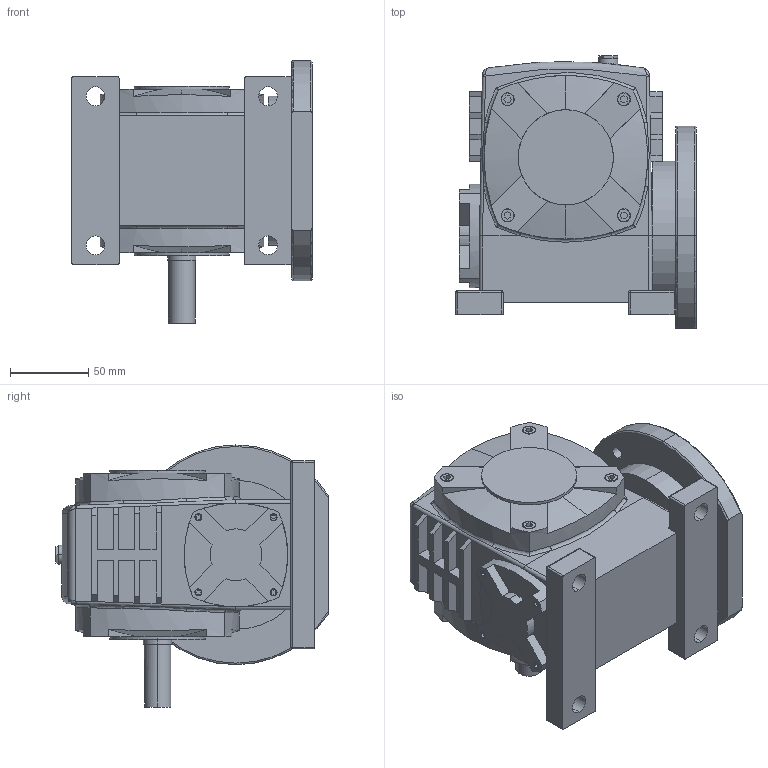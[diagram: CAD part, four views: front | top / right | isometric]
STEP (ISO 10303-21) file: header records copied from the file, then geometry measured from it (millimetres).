
FILE_DESCRIPTION (( 'STEP AP203' ), '1' );
FILE_NAME ('WPDA50.STEP', '2016-10-23T03:30:16', ( '' ), ( '' ), 'SwSTEP 2.0', 'SolidWorks 2014', '' );
FILE_SCHEMA (( 'CONFIG_CONTROL_DESIGN' ));
Products named in the file (1): WPDA50
Bounding box: 153 x 173.5 x 167 mm (x, y, z)
Volume: 1809718.5 mm3; surface area: 161939.1 mm2
Topology: 14 solids, 14 shells, 1158 faces, 3016 edges, 1950 vertices
Faces by surface type: plane 703, bspline 229, cylinder 155, cone 26, torus 25, sphere 20
Entity records: 43256 total; most frequent: CARTESIAN_POINT 16240, ORIENTED_EDGE 6008, DIRECTION 4776, EDGE_CURVE 3004, VECTOR 2058, LINE 2058, VERTEX_POINT 1950, AXIS2_PLACEMENT_3D 1359
